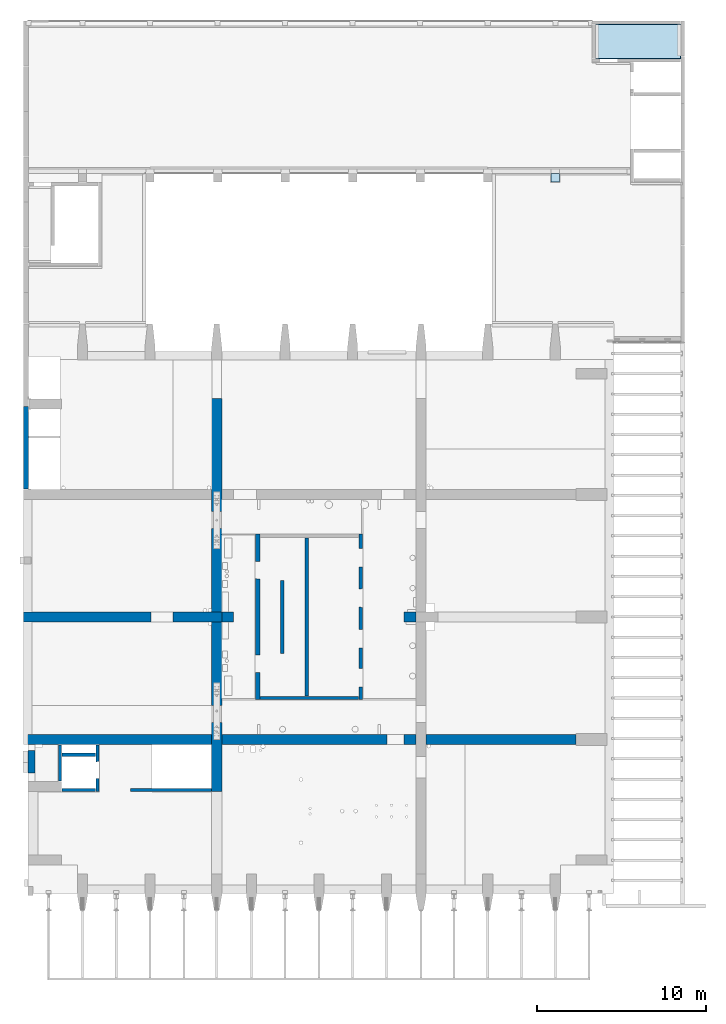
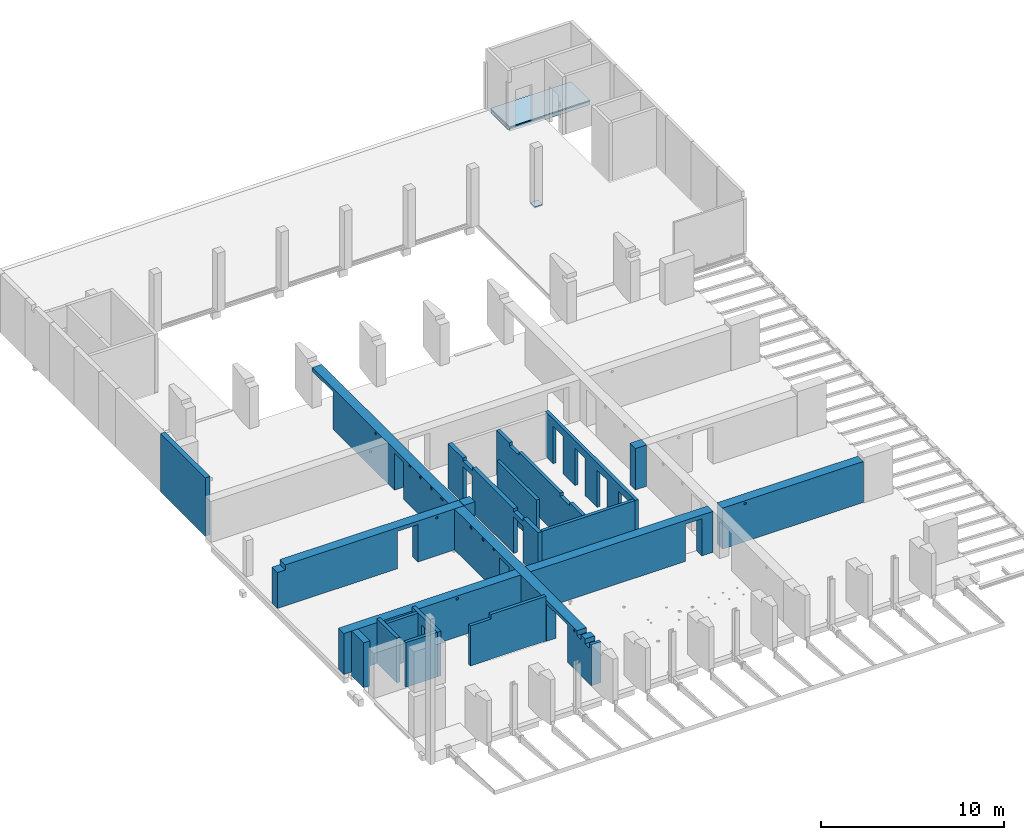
# One storey, part 20 of 27: 17 walls, 3 slabs, 40 openings.
"""IFC2X3 building model written with IfcOpenShell, lengths in millimetres."""

import ifcopenshell
import ifcopenshell.guid

model = None  # the IFC model being written
_history = None  # IfcOwnerHistory: only IFC2X3 demands one
_inside = {}  # id of a spatial element -> (the spatial element, [elements in it])
_under = {}  # id of a project, library or spatial element -> (it, [spatial elements below it])
_declared = {}  # id of a project -> (the project, [libraries it declares])
_typed = {}  # id of a type object -> (the type object, [elements of that type])
_made_of = {}  # id of a material, layer set ... -> (it, [elements and type objects made of it])


def new_model(schema):
    """Start an empty IFC model of exactly this schema.

    Asked for "IFC4X3", IfcOpenShell would pick the latest addendum, in which some entities
    have other attributes; the version numbers below select the first issue.
    IFC2X3 requires an IfcOwnerHistory on every rooted entity: one is made here for all.
    """
    global model, _history
    if schema == "IFC4X3":
        model = ifcopenshell.file(schema_version=(4, 3, 0, 0))
    else:
        model = ifcopenshell.file(schema=schema)
    _inside.clear()
    _under.clear()
    _declared.clear()
    _typed.clear()
    _made_of.clear()
    _history = None
    if model.schema == "IFC2X3":
        org = make("IfcOrganization", Name="unknown")
        user = make(
            "IfcPersonAndOrganization",
            ThePerson=make("IfcPerson", FamilyName="unknown"),
            TheOrganization=org,
        )
        app = make(
            "IfcApplication",
            ApplicationDeveloper=org,
            Version="unknown",
            ApplicationFullName="unknown",
            ApplicationIdentifier="unknown",
        )
        _history = make(
            "IfcOwnerHistory",
            OwningUser=user,
            OwningApplication=app,
            ChangeAction="ADDED",
            CreationDate=0,
        )
    return model


def make(cls, **values):
    """One entity of the class cls with the attributes given. An attribute that is None is left unset."""
    return model.create_entity(
        cls, **{name: value for name, value in values.items() if value is not None}
    )


def entity(cls, *values):
    """Any entity or typed value of the class cls, its attributes in the order of the schema. None: left unset."""
    e = model.create_entity(cls)
    for i, value in enumerate(values):
        if value is not None:
            e[i] = value
    return e


def rooted(cls, **values):
    """An entity with a GlobalId (a new one), such as an element, a storey or a relation."""
    return make(cls, GlobalId=ifcopenshell.guid.new(), OwnerHistory=_history, **values)


def si_unit(unit_type, name, prefix=None):
    """IfcSIUnit, for example si_unit("LENGTHUNIT", "METRE", prefix="MILLI")."""
    return make("IfcSIUnit", UnitType=unit_type, Prefix=prefix, Name=name)


def converted_unit(unit_type, name, factor, base, dimensions=None, offset=None):
    """IfcConversionBasedUnit, such as the inch: factor (a typed value) times the base unit."""
    return make(
        "IfcConversionBasedUnit"
        if offset is None
        else "IfcConversionBasedUnitWithOffset",
        ConversionOffset=offset,
        Dimensions=None
        if dimensions is None
        else entity("IfcDimensionalExponents", *dimensions),
        UnitType=unit_type,
        Name=name,
        ConversionFactor=make(
            "IfcMeasureWithUnit", ValueComponent=factor, UnitComponent=base
        ),
    )


def derived_unit(unit_type, elements):
    """IfcDerivedUnit: a product of units, each with its exponent."""
    return make(
        "IfcDerivedUnit",
        Elements=[
            make("IfcDerivedUnitElement", Unit=unit, Exponent=power)
            for unit, power in elements
        ],
        UnitType=unit_type,
    )


def assignment(units):
    """IfcUnitAssignment: the units of a project."""
    return None if units is None else make("IfcUnitAssignment", Units=units)


def point(xyz):
    """IfcCartesianPoint."""
    return None if xyz is None else make("IfcCartesianPoint", Coordinates=xyz)


def direction(xyz):
    """IfcDirection."""
    return None if xyz is None else make("IfcDirection", DirectionRatios=xyz)


def frame(location, z_axis=None, x_axis=None):
    """IfcAxis2Placement3D, a coordinate frame: its origin and axes. An axis left out is left unset."""
    return make(
        "IfcAxis2Placement3D",
        Location=point(location),
        Axis=direction(z_axis),
        RefDirection=direction(x_axis),
    )


def frame_2d(location, x_axis=None):
    """IfcAxis2Placement2D, a coordinate frame in the plane: its origin and x axis."""
    return make(
        "IfcAxis2Placement2D", Location=point(location), RefDirection=direction(x_axis)
    )


def origin():
    """The frame at (0, 0, 0) with its axes left unset."""
    return frame((0.0, 0.0, 0.0))


def origin_2d_with_axis():
    """The frame at (0, 0) in the plane with the x axis (1, 0) written out."""
    return frame_2d((0.0, 0.0), x_axis=(1.0, 0.0))


def place(relative_to, where):
    """IfcLocalPlacement: puts the frame where relative to a parent placement (None: the world)."""
    return make(
        "IfcLocalPlacement", PlacementRelTo=relative_to, RelativePlacement=where
    )


def context(
    kind, dimensions, precision=None, world=None, true_north=None, identifier=None
):
    """IfcGeometricRepresentationContext, for example the 3D "Model" context."""
    return make(
        "IfcGeometricRepresentationContext",
        ContextIdentifier=identifier,
        ContextType=kind,
        CoordinateSpaceDimension=dimensions,
        Precision=precision,
        WorldCoordinateSystem=world,
        TrueNorth=true_north,
    )


def subcontext(parent, identifier, kind, view, scale=None):
    """IfcGeometricRepresentationSubContext, for example "Body" below "Model"."""
    return make(
        "IfcGeometricRepresentationSubContext",
        ContextIdentifier=identifier,
        ContextType=kind,
        ParentContext=parent,
        TargetScale=scale,
        TargetView=view,
    )


def project(units=None, contexts=None):
    """IfcProject with its units and contexts."""
    return rooted(
        "IfcProject",
        Name="project",
        RepresentationContexts=contexts,
        UnitsInContext=assignment(units),
    )


def spatial(cls, under=None, at=None, **own):
    """A site, building, storey or space (cls), placed at a placement, below another one or the project."""
    s = rooted(cls, ObjectPlacement=at, **own)
    if under is not None:
        _under.setdefault(under.id(), (under, []))[1].append(s)
    return s


def profile(cls, at=None, kind="AREA", **sizes):
    """A parametric profile (cls). Its sizes go by their IFC names, for example OverallWidth=200.0."""
    return make(cls, ProfileType=kind, Position=at, **sizes)


def rectangle(**sizes):
    """IfcRectangleProfileDef."""
    return profile("IfcRectangleProfileDef", **sizes)


def circle(**sizes):
    """IfcCircleProfileDef."""
    return profile("IfcCircleProfileDef", **sizes)


def extrude(swept, where, along, depth):
    """IfcExtrudedAreaSolid: the profile swept, set in the frame where, extruded along a direction by depth."""
    return make(
        "IfcExtrudedAreaSolid",
        SweptArea=swept,
        Position=where,
        ExtrudedDirection=direction(along),
        Depth=depth,
    )


def faces_of(points, faces, orient=None, outer=None):
    """IfcFace entities. A face is a list of loops; a loop is a list of indices into points, from 0.

    orient and outer hold one flag for each loop. By default every Orientation is true, the
    first loop of a face is its IfcFaceOuterBound and the others are IfcFaceBound.
    """
    made = []
    for i, loops in enumerate(faces):
        bounds = []
        for j, loop in enumerate(loops):
            is_outer = j == 0 if outer is None else outer[i][j]
            bounds.append(
                make(
                    "IfcFaceOuterBound" if is_outer else "IfcFaceBound",
                    Bound=make("IfcPolyLoop", Polygon=[points[k] for k in loop]),
                    Orientation=True if orient is None else orient[i][j],
                )
            )
        made.append(make("IfcFace", Bounds=bounds))
    return made


def faceted_brep(points, faces, orient=None, outer=None, voids=None):
    """IfcFacetedBrep: a solid bounded by flat faces; with voids (closed shells), ...WithVoids."""
    shared = [point(p) for p in points]
    hull = make("IfcClosedShell", CfsFaces=faces_of(shared, faces, orient, outer))
    if voids is None:
        return make("IfcFacetedBrep", Outer=hull)
    return make(
        "IfcFacetedBrepWithVoids",
        Outer=hull,
        Voids=[
            make(cls, CfsFaces=faces_of(shared, fs, o, b)) for cls, fs, o, b in voids
        ],
    )


def shape(context_of_items, identifier, shape_type, items):
    """IfcShapeRepresentation: the items that make up one representation, for example the "Body"."""
    return make(
        "IfcShapeRepresentation",
        ContextOfItems=context_of_items,
        RepresentationIdentifier=identifier,
        RepresentationType=shape_type,
        Items=items,
    )


def material(Name=None, Category=None):
    """IfcMaterial."""
    return make("IfcMaterial", Name=Name, Category=Category)


def layer(
    of_material, thickness, ventilated=None, Name=None, Category=None, Priority=None
):
    """IfcMaterialLayer: one layer of a wall or slab, of a material (None: an air gap)."""
    return make(
        "IfcMaterialLayer",
        Material=of_material,
        LayerThickness=thickness,
        IsVentilated=ventilated,
        Name=Name,
        Category=Category,
        Priority=Priority,
    )


def layer_set(layers, Name=None):
    """IfcMaterialLayerSet."""
    return make("IfcMaterialLayerSet", MaterialLayers=layers, LayerSetName=Name)


def layer_usage(for_layer_set, set_direction, sense, offset, extent=None):
    """IfcMaterialLayerSetUsage: how a layer set lies in its element."""
    return make(
        "IfcMaterialLayerSetUsage",
        ForLayerSet=for_layer_set,
        LayerSetDirection=set_direction,
        DirectionSense=sense,
        OffsetFromReferenceLine=offset,
        ReferenceExtent=extent,
    )


def made_of(thing, what):
    """Note that an element or type object is made of a material, layer set ...; save() writes the relation."""
    if what is not None:
        _made_of.setdefault(what.id(), (what, []))[1].append(thing)
    return thing


def type_object(cls, material=None, **own):
    """A type object (cls), such as IfcWallType, which elements share."""
    return made_of(rooted(cls, **own), material)


def element(
    cls,
    number,
    at=None,
    inside=None,
    cuts=None,
    type_object=None,
    material=None,
    context=None,
    identifier="Body",
    shape_type=None,
    held_by="IfcProductDefinitionShape",
    body=None,
    shapes=None,
    **own,
):
    """One element of the class cls, such as IfcWall. Its Tag is "e" and its number.

    at: its placement. inside: the storey or other place that contains it. cuts: it is an
    opening in that element (IfcRelVoidsElement). A single representation is given by context,
    identifier, shape_type and body (its items); several are given by shapes. held_by: the class
    of the entity that holds the representations. save() writes the other relations.
    """
    e = rooted(cls, Tag="e%d" % number, ObjectPlacement=at, **own)
    if body is not None:
        shapes = [shape(context, identifier, shape_type, body)]
    if shapes is not None:
        e.Representation = make(held_by, Representations=shapes)
    if inside is not None:
        _inside.setdefault(inside.id(), (inside, []))[1].append(e)
    if cuts is not None:
        rooted(
            "IfcRelVoidsElement", RelatingBuildingElement=cuts, RelatedOpeningElement=e
        )
    if type_object is not None:
        _typed.setdefault(type_object.id(), (type_object, []))[1].append(e)
    return made_of(e, material)


def aggregate(whole, parts):
    """IfcRelAggregates: a whole, such as a stair, and the parts it consists of."""
    return rooted("IfcRelAggregates", RelatingObject=whole, RelatedObjects=parts)


def save(model, path):
    """Write the relations noted so far, then the file.

    IfcRelAggregates (storeys below a building ...), IfcRelContainedInSpatialStructure (elements
    in a storey), IfcRelDefinesByType, IfcRelAssociatesMaterial and IfcRelDeclares: one each for
    every whole, place, type object, material and project.
    """
    for whole, parts in _under.values():
        aggregate(whole, parts)
    for where, things in _inside.values():
        rooted(
            "IfcRelContainedInSpatialStructure",
            RelatedElements=things,
            RelatingStructure=where,
        )
    for kind, things in _typed.values():
        rooted("IfcRelDefinesByType", RelatedObjects=things, RelatingType=kind)
    for what, things in _made_of.values():
        rooted("IfcRelAssociatesMaterial", RelatedObjects=things, RelatingMaterial=what)
    for by, libraries in _declared.values():
        rooted("IfcRelDeclares", RelatingContext=by, RelatedDefinitions=libraries)
    model.write(path)


model = new_model("IFC2X3")

# Units and contexts
model_context = context("Model", 3, precision=0.01, world=origin(), true_north=direction((6.12303176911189e-17, 1.0)))
body_context = subcontext(model_context, "Body", "Model", "MODEL_VIEW")
ifc_project = project(units=[si_unit("LENGTHUNIT", "METRE", prefix="MILLI"), si_unit("AREAUNIT", "SQUARE_METRE"), si_unit("VOLUMEUNIT", "CUBIC_METRE"), converted_unit("PLANEANGLEUNIT", "DEGREE", entity("IfcRatioMeasure", 0.0174532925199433), si_unit("PLANEANGLEUNIT", "RADIAN"), dimensions=[0, 0, 0, 0, 0, 0, 0]), si_unit("MASSUNIT", "GRAM", prefix="KILO"), derived_unit("MASSDENSITYUNIT", [(si_unit("MASSUNIT", "GRAM", prefix="KILO"), 1), (si_unit("LENGTHUNIT", "METRE"), -3)]), si_unit("TIMEUNIT", "SECOND"), si_unit("FREQUENCYUNIT", "HERTZ"), si_unit("THERMODYNAMICTEMPERATUREUNIT", "DEGREE_CELSIUS"), derived_unit("THERMALTRANSMITTANCEUNIT", [(si_unit("MASSUNIT", "GRAM", prefix="KILO"), 1), (si_unit("THERMODYNAMICTEMPERATUREUNIT", "KELVIN"), -1), (si_unit("TIMEUNIT", "SECOND"), -3)]), derived_unit("VOLUMETRICFLOWRATEUNIT", [(si_unit("LENGTHUNIT", "METRE"), 3), (si_unit("TIMEUNIT", "SECOND"), -1)]), si_unit("ELECTRICCURRENTUNIT", "AMPERE"), si_unit("ELECTRICVOLTAGEUNIT", "VOLT"), si_unit("POWERUNIT", "WATT"), si_unit("FORCEUNIT", "NEWTON", prefix="KILO"), si_unit("ILLUMINANCEUNIT", "LUX"), si_unit("LUMINOUSFLUXUNIT", "LUMEN"), si_unit("LUMINOUSINTENSITYUNIT", "CANDELA"), derived_unit("USERDEFINED", [(si_unit("MASSUNIT", "GRAM", prefix="KILO"), -1), (si_unit("LENGTHUNIT", "METRE"), -2), (si_unit("TIMEUNIT", "SECOND"), 3), (si_unit("LUMINOUSFLUXUNIT", "LUMEN"), 1)]), derived_unit("LINEARVELOCITYUNIT", [(si_unit("LENGTHUNIT", "METRE"), 1), (si_unit("TIMEUNIT", "SECOND"), -1)]), si_unit("PRESSUREUNIT", "PASCAL"), derived_unit("USERDEFINED", [(si_unit("LENGTHUNIT", "METRE"), -2), (si_unit("MASSUNIT", "GRAM", prefix="KILO"), 1), (si_unit("TIMEUNIT", "SECOND"), -2)])], contexts=[model_context])

# Site, building, storey
site_placement = place(None, origin())
site = spatial("IfcSite", under=ifc_project, at=site_placement, Name="Default", CompositionType="ELEMENT")
building_placement = place(site_placement, origin())
building = spatial("IfcBuilding", under=site, at=building_placement, Name="niet gebruiken", CompositionType="ELEMENT")
storey_placement = place(building_placement, frame((0.0, 0.0, 6000.0)))
storey = spatial("IfcBuildingStorey", under=building, at=storey_placement, Name="01 eerste verdieping", CompositionType="ELEMENT", Elevation=6000.0)

# Slabs
ifc_material_1 = material(Name="NLRS_f2_beton prefab")
ifc_layer_1 = layer(ifc_material_1, 255.0)
ifc_layer_set_1 = layer_set([ifc_layer_1], Name="Floor:NLRS_23.21_FL_kanaalplaat d=255_gen")
ifc_layer_usage_1 = layer_usage(ifc_layer_set_1, "AXIS3", "POSITIVE", 0.0)
slab_1_placement = place(storey_placement, origin())
element("IfcSlab", 1, at=slab_1_placement, inside=storey, material=ifc_layer_usage_1, Name="Floor:NLRS_23.21_FL_kanaalplaat d=255_gen", ObjectType="Floor:NLRS_23.21_FL_kanaalplaat d=255_gen", PredefinedType="FLOOR", context=body_context, shape_type="SweptSolid", body=[
    extrude(rectangle(XDim=2010.00000000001, YDim=5030.0000000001, at=frame_2d((0.0, -1.72803993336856e-11), x_axis=(1.0, 0.0))), frame((160655.0, 51575.0, -160.0), z_axis=(0.0, 0.0, -1.0), x_axis=(0.0, 1.0, 0.0)), (0.0, 0.0, 1.0), 255.000000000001),
])
ifc_material_2 = material(Name="NLRS_f2_beton ihwg")
ifc_layer_2 = layer(ifc_material_2, 70.0)
ifc_layer_set_2 = layer_set([ifc_layer_2], Name="Floor:NLRS_23.21_FL_druklaag d=70_gen")
ifc_layer_usage_2 = layer_usage(ifc_layer_set_2, "AXIS3", "POSITIVE", 0.0)
slab_2_placement = place(storey_placement, origin())
element("IfcSlab", 2, at=slab_2_placement, inside=storey, material=ifc_layer_usage_2, Name="Floor:NLRS_23.21_FL_druklaag d=70_gen", ObjectType="Floor:NLRS_23.21_FL_druklaag d=70_gen", PredefinedType="FLOOR", context=body_context, shape_type="SweptSolid", body=[
    extrude(rectangle(XDim=2050.0, YDim=5070.00000000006, at=origin_2d_with_axis()), frame((160655.0, 51575.0, -90.0), z_axis=(0.0, 0.0, -1.0), x_axis=(0.0, 1.0, 0.0)), (0.0, 0.0, 1.0), 70.0000000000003),
])
ifc_layer_3 = layer(ifc_material_2, 80.0)
ifc_layer_set_3 = layer_set([ifc_layer_3], Name="Floor:NLRS_23.21_FL_druklaag d=80_gen")
ifc_layer_usage_3 = layer_usage(ifc_layer_set_3, "AXIS3", "POSITIVE", 0.0)
slab_3_placement = place(storey_placement, frame((124550.0, 43250.0, -170.0)))
element("IfcSlab", 3, at=slab_3_placement, inside=storey, material=ifc_layer_usage_3, Name="Floor:NLRS_23.21_FL_druklaag d=80_gen:2", ObjectType="Floor:NLRS_23.21_FL_druklaag d=80_gen", PredefinedType="FLOOR", context=body_context, shape_type="SweptSolid", body=[
    extrude(rectangle(XDim=499.999999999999, YDim=499.999999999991, at=frame_2d((-14515.0, -4510.0), x_axis=(0.0, -1.0))), frame((16685.0, 4760.0, 80.0), z_axis=(0.0, 0.0, -1.0), x_axis=(-1.0, 0.0, 0.0)), (0.0, 0.0, 1.0), 80.0000000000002),
])

# Wall, openings
ifc_layer_4 = layer(ifc_material_2, 600.0)
ifc_layer_set_4 = layer_set([ifc_layer_4], Name="Basic Wall:NLRS_22.21_WA_beton ihwg d=600_gen")
ifc_layer_usage_4 = layer_usage(ifc_layer_set_4, "AXIS2", "NEGATIVE", 300.0)
wall_type_1 = type_object("IfcWallType", Name="Basic Wall:NLRS_22.21_WA_beton ihwg d=600_gen", PredefinedType="STANDARD", material=ifc_layer_set_4)
wall_1_placement = place(storey_placement, frame((124250.0, 10250.0, -90.0)))
wall_1 = element("IfcWallStandardCase", 4, at=wall_1_placement, inside=storey, type_object=wall_type_1, material=ifc_layer_usage_4, Name="Basic Wall:NLRS_22.21_WA_beton ihwg d=600_gen", ObjectType="Basic Wall:NLRS_22.21_WA_beton ihwg d=600_gen", context=body_context, shape_type="SweptSolid", body=[
    extrude(rectangle(XDim=32730.0, YDim=599.999999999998, at=frame_2d((16365.0, 2.55795384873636e-13), x_axis=(-1.0, 0.0))), origin(), (0.0, 0.0, 1.0), 2730.0),
])
opening_1_placement = place(storey_placement, frame((124250.0, 10250.0, -90.0)))
element("IfcOpeningElement", 5, at=opening_1_placement, cuts=wall_1, Name="Basic Wall:NLRS_22.21_WA_beton ihwg d=600_gen:1", ObjectType="Opening", context=body_context, shape_type="SweptSolid", body=[
    extrude(rectangle(XDim=2730.0, YDim=600.0, at=frame_2d((5.6843418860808e-13, 0.0), x_axis=(1.0, 0.0))), frame((23250.0, 0.0, 1365.0), z_axis=(1.0, 0.0, 0.0), x_axis=(0.0, 0.0, -1.0)), (0.0, 0.0, 1.0), 600.000000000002),
])
opening_2_placement = place(storey_placement, frame((124250.0, 10250.0, -90.0)))
element("IfcOpeningElement", 6, at=opening_2_placement, cuts=wall_1, Name="Basic Wall:NLRS_22.21_WA_beton ihwg d=600_gen:2", ObjectType="Opening", context=body_context, shape_type="SweptSolid", body=[
    extrude(rectangle(XDim=2730.0, YDim=600.0, at=frame_2d((5.6843418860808e-13, 1.08002495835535e-12), x_axis=(1.0, 0.0))), frame((11150.0, 0.0, 1365.0), z_axis=(1.0, 0.0, 0.0), x_axis=(0.0, 0.0, -1.0)), (0.0, 0.0, 1.0), 600.000000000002),
])
opening_3_placement = place(wall_1_placement, origin())
element("IfcOpeningElement", 7, at=opening_3_placement, cuts=wall_1, Name="Basic Wall:NLRS_22.21_WA_beton ihwg d=600_gen", ObjectType="Opening", context=body_context, shape_type="SweptSolid", body=[
    extrude(rectangle(XDim=2475.0, YDim=1015.99999999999, at=frame_2d((5.6843418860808e-13, -8.66862137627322e-12), x_axis=(1.0, 0.0))), frame((22042.0, -300.0, 1237.5), z_axis=(0.0, 1.0, 0.0), x_axis=(0.0, 0.0, -1.0)), (0.0, 0.0, 1.0), 600.0),
])
opening_4_placement = place(wall_1_placement, origin())
element("IfcOpeningElement", 8, at=opening_4_placement, cuts=wall_1, Name="Basic Wall:NLRS_22.21_WA_beton ihwg d=600_gen", ObjectType="Opening", context=body_context, shape_type="SweptSolid", body=[
    extrude(circle(Radius=80.0, at=origin_2d_with_axis()), frame((7150.0, -300.0, 2540.0), z_axis=(0.0, 1.0, 0.0), x_axis=(-1.0, 0.0, 0.0)), (0.0, 0.0, 1.0), 600.0),
])
opening_5_placement = place(wall_1_placement, origin())
element("IfcOpeningElement", 9, at=opening_5_placement, cuts=wall_1, Name="Basic Wall:NLRS_22.21_WA_beton ihwg d=600_gen", ObjectType="Opening", context=body_context, shape_type="SweptSolid", body=[
    extrude(circle(Radius=80.0, at=origin_2d_with_axis()), frame((25280.0, -300.0, 2540.0), z_axis=(0.0, 1.0, 0.0), x_axis=(-1.0, 0.0, 0.0)), (0.0, 0.0, 1.0), 600.0),
])

ifc_layer_usage_5 = layer_usage(ifc_layer_set_4, "AXIS2", "NEGATIVE", 300.0)
wall_2_placement = place(storey_placement, frame((124250.0, 17500.0, -90.0)))
wall_2 = element("IfcWallStandardCase", 10, at=wall_2_placement, inside=storey, type_object=wall_type_1, material=ifc_layer_usage_5, Name="Basic Wall:NLRS_22.21_WA_beton ihwg d=600_gen", ObjectType="Basic Wall:NLRS_22.21_WA_beton ihwg d=600_gen", context=body_context, shape_type="SweptSolid", body=[
    extrude(rectangle(XDim=11750.0000000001, YDim=600.000000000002, at=frame_2d((5875.00000000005, 0.0), x_axis=(-1.0, 0.0))), origin(), (0.0, 0.0, 1.0), 2730.0),
])
opening_6_placement = place(wall_2_placement, origin())
element("IfcOpeningElement", 11, at=opening_6_placement, cuts=wall_2, Name="Basic Wall:NLRS_22.21_WA_beton ihwg d=600_gen", ObjectType="Opening", context=body_context, shape_type="SweptSolid", body=[
    extrude(rectangle(XDim=2490.0, YDim=1300.0, at=frame_2d((5.6843418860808e-13, 8.69704308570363e-12), x_axis=(1.0, 0.0))), frame((8200.0, -300.0, 1245.0), z_axis=(0.0, 1.0, 0.0), x_axis=(0.0, 0.0, -1.0)), (0.0, 0.0, 1.0), 600.0),
])
opening_7_placement = place(wall_2_placement, origin())
element("IfcOpeningElement", 12, at=opening_7_placement, cuts=wall_2, Name="Basic Wall:NLRS_22.21_WA_beton ihwg d=600_gen", ObjectType="Opening", context=body_context, shape_type="SweptSolid", body=[
    extrude(circle(Radius=80.0, at=origin_2d_with_axis()), frame((10050.0, -300.0, 2540.0), z_axis=(0.0, 1.0, 0.0), x_axis=(1.0, 0.0, 0.0)), (0.0, 0.0, 1.0), 600.0),
])
opening_8_placement = place(wall_2_placement, origin())
element("IfcOpeningElement", 13, at=opening_8_placement, cuts=wall_2, Name="Basic Wall:NLRS_22.21_WA_beton ihwg d=600_gen", ObjectType="Opening", context=body_context, shape_type="SweptSolid", body=[
    extrude(rectangle(XDim=329.999999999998, YDim=500.000000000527, at=frame_2d((8.66862137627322e-12, 0.0), x_axis=(0.0, 1.0))), frame((250.0, 300.0, 2565.0), z_axis=(0.0, -1.0, 0.0), x_axis=(-1.0, 0.0, 0.0)), (0.0, 0.0, 1.0), 600.0),
])

ifc_layer_usage_6 = layer_usage(ifc_layer_set_4, "AXIS2", "NEGATIVE", 300.0)
wall_3_placement = place(storey_placement, frame((135700.0, 2270.0, -90.0), z_axis=(0.0, 0.0, 1.0), x_axis=(0.0, 1.0, 0.0)))
wall_3 = element("IfcWallStandardCase", 14, at=wall_3_placement, inside=storey, type_object=wall_type_1, material=ifc_layer_usage_6, Name="Basic Wall:NLRS_22.21_WA_beton ihwg d=600_gen", ObjectType="Basic Wall:NLRS_22.21_WA_beton ihwg d=600_gen", context=body_context, shape_type="SweptSolid", body=[
    extrude(rectangle(XDim=30460.0000000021, YDim=600.000000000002, at=frame_2d((15230.000000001, 8.5265128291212e-13), x_axis=(-1.0, 0.0))), origin(), (0.0, 0.0, 1.0), 2730.0),
])
opening_9_placement = place(storey_placement, frame((135700.0, 2270.0, -90.0), z_axis=(0.0, 0.0, 1.0), x_axis=(0.0, 1.0, 0.0)))
element("IfcOpeningElement", 15, at=opening_9_placement, cuts=wall_3, Name="Basic Wall:NLRS_22.21_WA_beton ihwg d=600_gen:1", ObjectType="Opening", context=body_context, shape_type="SweptSolid", body=[
    extrude(rectangle(XDim=2730.0, YDim=600.000000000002, at=origin_2d_with_axis()), frame((14930.0, 0.0, 1365.0), z_axis=(1.0, 0.0, 0.0), x_axis=(0.0, 0.0, -1.0)), (0.0, 0.0, 1.0), 600.0),
])
opening_10_placement = place(wall_3_placement, origin())
element("IfcOpeningElement", 16, at=opening_10_placement, cuts=wall_3, Name="Basic Wall:NLRS_22.21_WA_beton ihwg d=600_gen", ObjectType="Opening", context=body_context, shape_type="SweptSolid", body=[
    extrude(rectangle(XDim=2475.0, YDim=1016.0, at=frame_2d((5.6843418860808e-13, 0.0), x_axis=(1.0, 0.0))), frame((9488.0, -300.0, 1237.5), z_axis=(0.0, 1.0, 0.0), x_axis=(0.0, 0.0, -1.0)), (0.0, 0.0, 1.0), 600.000000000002),
])
opening_11_placement = place(wall_3_placement, origin())
element("IfcOpeningElement", 17, at=opening_11_placement, cuts=wall_3, Name="Basic Wall:NLRS_22.21_WA_beton ihwg d=600_gen", ObjectType="Opening", context=body_context, shape_type="SweptSolid", body=[
    extrude(rectangle(XDim=2475.0, YDim=1016.0, at=frame_2d((5.6843418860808e-13, -2.1600499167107e-12), x_axis=(1.0, 0.0))), frame((20972.0, -300.0, 1237.5), z_axis=(0.0, 1.0, 0.0), x_axis=(0.0, 0.0, -1.0)), (0.0, 0.0, 1.0), 600.000000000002),
])
opening_12_placement = place(wall_3_placement, origin())
element("IfcOpeningElement", 18, at=opening_12_placement, cuts=wall_3, Name="Basic Wall:NLRS_22.21_WA_beton ihwg d=600_gen", ObjectType="Opening", context=body_context, shape_type="SweptSolid", body=[
    extrude(rectangle(XDim=2490.0, YDim=2300.0, at=frame_2d((5.6843418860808e-13, -3.41060513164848e-13), x_axis=(1.0, 0.0))), frame((3730.0, -300.0, 1245.0), z_axis=(0.0, 1.0, 0.0), x_axis=(0.0, 0.0, -1.0)), (0.0, 0.0, 1.0), 600.000000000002),
])
opening_13_placement = place(wall_3_placement, origin())
element("IfcOpeningElement", 19, at=opening_13_placement, cuts=wall_3, Name="Basic Wall:NLRS_22.21_WA_beton ihwg d=600_gen", ObjectType="Opening", context=body_context, shape_type="SweptSolid", body=[
    extrude(rectangle(XDim=325.0, YDim=450.000000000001, at=frame_2d((0.0, -2.70006239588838e-13), x_axis=(1.0, 0.0))), frame((1330.0, -300.0, 2567.5), z_axis=(0.0, 1.0, 0.0), x_axis=(0.0, 0.0, -1.0)), (0.0, 0.0, 1.0), 600.000000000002),
])
opening_14_placement = place(wall_3_placement, origin())
element("IfcOpeningElement", 20, at=opening_14_placement, cuts=wall_3, Name="Basic Wall:NLRS_22.21_WA_beton ihwg d=600_gen", ObjectType="Opening", context=body_context, shape_type="SweptSolid", body=[
    extrude(rectangle(XDim=325.0, YDim=450.000000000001, at=frame_2d((0.0, 2.70006239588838e-13), x_axis=(1.0, 0.0))), frame((430.0, -300.0, 2567.5), z_axis=(0.0, 1.0, 0.0), x_axis=(0.0, 0.0, -1.0)), (0.0, 0.0, 1.0), 600.000000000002),
])
opening_15_placement = place(wall_3_placement, origin())
element("IfcOpeningElement", 21, at=opening_15_placement, cuts=wall_3, Name="Basic Wall:NLRS_22.21_WA_beton ihwg d=600_gen", ObjectType="Opening", context=body_context, shape_type="SweptSolid", body=[
    extrude(circle(Radius=80.0, at=origin_2d_with_axis()), frame((23530.0, -300.0, 2540.0), z_axis=(0.0, 1.0, 0.0), x_axis=(1.0, 0.0, 0.0)), (0.0, 0.0, 1.0), 600.000000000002),
])
opening_16_placement = place(wall_3_placement, origin())
element("IfcOpeningElement", 22, at=opening_16_placement, cuts=wall_3, Name="Basic Wall:NLRS_22.21_WA_beton ihwg d=600_gen", ObjectType="Opening", context=body_context, shape_type="SweptSolid", body=[
    extrude(circle(Radius=80.0, at=origin_2d_with_axis()), frame((1855.0, -300.0, 2540.0), z_axis=(0.0, 1.0, 0.0), x_axis=(1.0, 0.0, 0.0)), (0.0, 0.0, 1.0), 600.000000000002),
])
opening_17_placement = place(wall_3_placement, origin())
element("IfcOpeningElement", 23, at=opening_17_placement, cuts=wall_3, Name="Basic Wall:NLRS_22.21_WA_beton ihwg d=600_gen", ObjectType="Opening", context=body_context, shape_type="SweptSolid", body=[
    extrude(circle(Radius=80.0, at=origin_2d_with_axis()), frame((10655.0, -300.0, 2625.0), z_axis=(0.0, 1.0, 0.0), x_axis=(1.0, 0.0, 0.0)), (0.0, 0.0, 1.0), 600.000000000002),
])
opening_18_placement = place(wall_3_placement, origin())
element("IfcOpeningElement", 24, at=opening_18_placement, cuts=wall_3, Name="Basic Wall:NLRS_22.21_WA_beton ihwg d=600_gen", ObjectType="Opening", context=body_context, shape_type="SweptSolid", body=[
    extrude(circle(Radius=100.0, at=origin_2d_with_axis()), frame((11810.0000242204, -300.0, 2570.0), z_axis=(0.0, 1.0, 0.0), x_axis=(1.0, 0.0, 0.0)), (0.0, 0.0, 1.0), 600.000000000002),
])
opening_19_placement = place(wall_3_placement, origin())
element("IfcOpeningElement", 25, at=opening_19_placement, cuts=wall_3, Name="Basic Wall:NLRS_22.21_WA_beton ihwg d=600_gen", ObjectType="Opening", context=body_context, shape_type="SweptSolid", body=[
    extrude(circle(Radius=100.0, at=origin_2d_with_axis()), frame((13124.9995617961, -300.0, 2570.0), z_axis=(0.0, 1.0, 0.0), x_axis=(1.0, 0.0, 0.0)), (0.0, 0.0, 1.0), 600.000000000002),
])
opening_20_placement = place(wall_3_placement, origin())
element("IfcOpeningElement", 26, at=opening_20_placement, cuts=wall_3, Name="Basic Wall:NLRS_22.21_WA_beton ihwg d=600_gen", ObjectType="Opening", context=body_context, shape_type="SweptSolid", body=[
    extrude(circle(Radius=62.5, at=origin_2d_with_axis()), frame((16220.0, -300.0, 2540.0), z_axis=(0.0, 1.0, 0.0), x_axis=(1.0, 0.0, 0.0)), (0.0, 0.0, 1.0), 600.000000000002),
])
opening_21_placement = place(wall_3_placement, origin())
element("IfcOpeningElement", 27, at=opening_21_placement, cuts=wall_3, Name="Basic Wall:NLRS_22.21_WA_beton ihwg d=600_gen", ObjectType="Opening", context=body_context, shape_type="SweptSolid", body=[
    extrude(circle(Radius=62.5, at=origin_2d_with_axis()), frame((16420.0, -300.0, 2540.0), z_axis=(0.0, 1.0, 0.0), x_axis=(1.0, 0.0, 0.0)), (0.0, 0.0, 1.0), 600.000000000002),
])
opening_22_placement = place(wall_3_placement, origin())
element("IfcOpeningElement", 28, at=opening_22_placement, cuts=wall_3, Name="Basic Wall:NLRS_22.21_WA_beton ihwg d=600_gen", ObjectType="Opening", context=body_context, shape_type="SweptSolid", body=[
    extrude(circle(Radius=100.0, at=origin_2d_with_axis()), frame((17460.0, -300.0, 2570.0), z_axis=(0.0, 1.0, 0.0), x_axis=(1.0, 0.0, 0.0)), (0.0, 0.0, 1.0), 600.000000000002),
])
opening_23_placement = place(wall_3_placement, origin())
element("IfcOpeningElement", 29, at=opening_23_placement, cuts=wall_3, Name="Basic Wall:NLRS_22.21_WA_beton ihwg d=600_gen", ObjectType="Opening", context=body_context, shape_type="SweptSolid", body=[
    extrude(circle(Radius=100.0, at=origin_2d_with_axis()), frame((18650.0, -300.0, 2570.0), z_axis=(0.0, 1.0, 0.0), x_axis=(1.0, 0.0, 0.0)), (0.0, 0.0, 1.0), 600.000000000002),
])
opening_24_placement = place(wall_3_placement, origin())
element("IfcOpeningElement", 30, at=opening_24_placement, cuts=wall_3, Name="Basic Wall:NLRS_22.21_WA_beton ihwg d=600_gen", ObjectType="Opening", context=body_context, shape_type="SweptSolid", body=[
    extrude(circle(Radius=80.0, at=origin_2d_with_axis()), frame((19805.0, -300.0, 2640.0), z_axis=(0.0, 1.0, 0.0), x_axis=(-1.0, 0.0, 0.0)), (0.0, 0.0, 1.0), 600.000000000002),
])
opening_25_placement = place(wall_3_placement, origin())
element("IfcOpeningElement", 31, at=opening_25_placement, cuts=wall_3, Name="Basic Wall:NLRS_22.21_WA_beton ihwg d=600_gen", ObjectType="Opening", context=body_context, shape_type="SweptSolid", body=[
    extrude(rectangle(XDim=2490.0, YDim=2300.0, at=frame_2d((2.1600499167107e-12, 0.0), x_axis=(0.0, 1.0))), frame((29310.0, 300.0, 1245.0), z_axis=(0.0, -1.0, 0.0), x_axis=(1.0, 0.0, 0.0)), (0.0, 0.0, 1.0), 600.0),
])

# Wall, opening
ifc_layer_usage_7 = layer_usage(ifc_layer_set_4, "AXIS2", "NEGATIVE", 300.0)
wall_4_placement = place(storey_placement, frame((146800.0, 17500.0, -90.0)))
wall_4 = element("IfcWallStandardCase", 32, at=wall_4_placement, inside=storey, type_object=wall_type_1, material=ifc_layer_usage_7, Name="Basic Wall:NLRS_22.21_WA_beton ihwg d=600_gen", ObjectType="Basic Wall:NLRS_22.21_WA_beton ihwg d=600_gen", context=body_context, shape_type="SweptSolid", body=[
    extrude(rectangle(XDim=700.000000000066, YDim=600.000000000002, at=frame_2d((350.000000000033, 0.0), x_axis=(-1.0, 0.0))), origin(), (0.0, 0.0, 1.0), 2760.0),
])
opening_26_placement = place(wall_4_placement, origin())
element("IfcOpeningElement", 33, at=opening_26_placement, cuts=wall_4, Name="Basic Wall:NLRS_22.21_WA_beton ihwg d=600_gen", ObjectType="Opening", context=body_context, shape_type="SweptSolid", body=[
    extrude(rectangle(XDim=2490.0, YDim=1300.0, at=frame_2d((5.6843418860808e-13, -8.69704308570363e-12), x_axis=(1.0, 0.0))), frame((4250.0, -300.0, 1245.0), z_axis=(0.0, 1.0, 0.0), x_axis=(0.0, 0.0, -1.0)), (0.0, 0.0, 1.0), 600.0),
])

# Walls
ifc_layer_usage_8 = layer_usage(ifc_layer_set_4, "AXIS2", "NEGATIVE", 300.0)
wall_5_placement = place(storey_placement, frame((136000.0, 17500.0, -90.0)))
element("IfcWallStandardCase", 34, at=wall_5_placement, inside=storey, type_object=wall_type_1, material=ifc_layer_usage_8, Name="Basic Wall:NLRS_22.21_WA_beton ihwg d=600_gen", ObjectType="Basic Wall:NLRS_22.21_WA_beton ihwg d=600_gen", context=body_context, shape_type="SweptSolid", body=[
    extrude(rectangle(XDim=699.999999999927, YDim=600.000000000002, at=frame_2d((349.999999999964, 0.0), x_axis=(-1.0, 0.0))), origin(), (0.0, 0.0, 1.0), 2760.0),
])
ifc_layer_5 = layer(ifc_material_1, 200.0)
ifc_layer_set_5 = layer_set([ifc_layer_5], Name="Basic Wall:NLRS_22.21_WA_beton prefab d=200_gen")
ifc_layer_usage_9 = layer_usage(ifc_layer_set_5, "AXIS2", "NEGATIVE", 100.0)
wall_type_2 = type_object("IfcWallType", Name="Basic Wall:NLRS_22.21_WA_beton prefab d=200_gen", PredefinedType="STANDARD", material=ifc_layer_set_5)
wall_6_placement = place(storey_placement, frame((126420.0, 7770.0, -50.0), z_axis=(0.0, 0.0, 1.0), x_axis=(0.0, 1.0, 0.0)))
element("IfcWallStandardCase", 35, at=wall_6_placement, inside=storey, type_object=wall_type_2, material=ifc_layer_usage_9, Name="Basic Wall:NLRS_22.21_WA_beton prefab d=200_gen", ObjectType="Basic Wall:NLRS_22.21_WA_beton prefab d=200_gen", context=body_context, shape_type="SweptSolid", body=[
    extrude(rectangle(XDim=2160.0, YDim=199.999999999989, at=frame_2d((1080.0, 0.0), x_axis=(-1.0, 0.0))), origin(), (0.0, 0.0, 1.0), 2980.0),
])

# Wall, opening
ifc_layer_usage_10 = layer_usage(ifc_layer_set_5, "AXIS2", "NEGATIVE", 100.0)
wall_7_placement = place(storey_placement, frame((128640.0, 7150.0, -50.0), z_axis=(0.0, 0.0, 1.0), x_axis=(0.0, 1.0, 0.0)))
wall_7 = element("IfcWallStandardCase", 36, at=wall_7_placement, inside=storey, type_object=wall_type_2, material=ifc_layer_usage_10, Name="Basic Wall:NLRS_22.21_WA_beton prefab d=200_gen", ObjectType="Basic Wall:NLRS_22.21_WA_beton prefab d=200_gen", context=body_context, shape_type="SweptSolid", body=[
    extrude(rectangle(XDim=2779.99999999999, YDim=199.999999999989, at=frame_2d((1390.0, 0.0), x_axis=(-1.0, 0.0))), origin(), (0.0, 0.0, 1.0), 2980.0),
])
opening_27_placement = place(wall_7_placement, frame((778.0, 100.0, 0.0)))
element("IfcOpeningElement", 37, at=opening_27_placement, cuts=wall_7, Name="Basic Wall:NLRS_22.21_WA_beton prefab d=200_gen", ObjectType="Opening", context=body_context, shape_type="Brep", body=[
    faceted_brep([(992.0, 0.0, 2390.0), (992.0, 0.0, 0.0), (12.0, 0.0, 0.0), (12.0, 0.0, 2390.0), (1004.0, -200.0, 2402.0), (0.0, -200.0, 2402.0), (0.0, -200.0, 0.0), (1004.0, -200.0, 0.0)], [[[0, 1, 2, 3]], [[4, 5, 6, 7]], [[4, 0, 3, 5]], [[5, 3, 2, 6]], [[6, 2, 1, 7]], [[7, 1, 0, 4]]]),
])

# Walls
ifc_layer_usage_11 = layer_usage(ifc_layer_set_5, "AXIS2", "NEGATIVE", 100.0)
wall_8_placement = place(storey_placement, frame((126540.0, 7250.0, -50.0)))
element("IfcWallStandardCase", 38, at=wall_8_placement, inside=storey, type_object=wall_type_2, material=ifc_layer_usage_11, Name="Basic Wall:NLRS_22.21_WA_beton prefab d=200_gen", ObjectType="Basic Wall:NLRS_22.21_WA_beton prefab d=200_gen", context=body_context, shape_type="SweptSolid", body=[
    extrude(rectangle(XDim=1979.99999999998, YDim=200.0, at=frame_2d((989.999999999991, -2.98427949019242e-13), x_axis=(-1.0, 0.0))), origin(), (0.0, 0.0, 1.0), 2980.0),
])
ifc_layer_usage_12 = layer_usage(ifc_layer_set_5, "AXIS2", "NEGATIVE", 100.0)
wall_9_placement = place(storey_placement, frame((126540.0, 9350.0, -50.0)))
element("IfcWallStandardCase", 39, at=wall_9_placement, inside=storey, type_object=wall_type_2, material=ifc_layer_usage_12, Name="Basic Wall:NLRS_22.21_WA_beton prefab d=200_gen", ObjectType="Basic Wall:NLRS_22.21_WA_beton prefab d=200_gen", context=body_context, shape_type="SweptSolid", body=[
    extrude(rectangle(XDim=1980.0, YDim=200.0, at=frame_2d((990.0, -2.98427949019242e-13), x_axis=(-1.0, 0.0))), origin(), (0.0, 0.0, 1.0), 2980.0),
])

# Wall, openings
ifc_layer_usage_13 = layer_usage(ifc_layer_set_5, "AXIS2", "NEGATIVE", 100.0)
wall_10_placement = place(storey_placement, frame((144230.0, 22400.0, -50.0), z_axis=(0.0, 0.0, 1.0), x_axis=(0.0, -1.0, 0.0)))
wall_10 = element("IfcWallStandardCase", 40, at=wall_10_placement, inside=storey, type_object=wall_type_2, material=ifc_layer_usage_13, Name="Basic Wall:NLRS_22.21_WA_beton prefab d=200_gen", ObjectType="Basic Wall:NLRS_22.21_WA_beton prefab d=200_gen", context=body_context, shape_type="SweptSolid", body=[
    extrude(rectangle(XDim=9800.0, YDim=199.999999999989, at=frame_2d((4900.0, -3.69482222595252e-13), x_axis=(-1.0, 0.0))), origin(), (0.0, 0.0, 1.0), 2980.0),
])
opening_28_placement = place(wall_10_placement, frame((9047.0, -100.0, 0.0)))
element("IfcOpeningElement", 41, at=opening_28_placement, cuts=wall_10, Name="Basic Wall:NLRS_22.21_WA_beton prefab d=200_gen", ObjectType="Opening", context=body_context, shape_type="Brep", body=[
    faceted_brep([(-1104.0, 200.0, 2502.0), (-1104.0, 200.0, 0.0), (-1092.0, 0.0, 0.0), (-1092.0, 0.0, 2490.0), (0.0, 200.0, 0.0), (-12.0, 0.0, 0.0), (-12.0, 0.0, 2490.0), (0.0, 200.0, 2502.0)], [[[0, 1, 2, 3]], [[1, 4, 5, 2]], [[6, 3, 2, 5]], [[7, 4, 1, 0]], [[7, 0, 3, 6]], [[4, 7, 6, 5]]]),
])
opening_29_placement = place(wall_10_placement, frame((6737.0, -100.0, 0.0)))
element("IfcOpeningElement", 42, at=opening_29_placement, cuts=wall_10, Name="Basic Wall:NLRS_22.21_WA_beton prefab d=200_gen", ObjectType="Opening", context=body_context, shape_type="Brep", body=[
    faceted_brep([(-1104.0, 200.0, 2502.0), (-1104.0, 200.0, 0.0), (-1092.0, 0.0, 0.0), (-1092.0, 0.0, 2490.0), (0.0, 200.0, 0.0), (-12.0, 0.0, 0.0), (-12.0, 0.0, 2490.0), (0.0, 200.0, 2502.0)], [[[0, 1, 2, 3]], [[1, 4, 5, 2]], [[6, 3, 2, 5]], [[7, 4, 1, 0]], [[7, 0, 3, 6]], [[4, 7, 6, 5]]]),
])
opening_30_placement = place(wall_10_placement, frame((4332.0, -100.0, 0.0)))
element("IfcOpeningElement", 43, at=opening_30_placement, cuts=wall_10, Name="Basic Wall:NLRS_22.21_WA_beton prefab d=200_gen", ObjectType="Opening", context=body_context, shape_type="Brep", body=[
    faceted_brep([(-1104.0, 200.0, 2502.0), (-1104.0, 200.0, 0.0), (-1092.0, 0.0, 0.0), (-1092.0, 0.0, 2490.0), (0.0, 200.0, 0.0), (-12.0, 0.0, 0.0), (-12.0, 0.0, 2490.0), (0.0, 200.0, 2502.0)], [[[0, 1, 2, 3]], [[1, 4, 5, 2]], [[6, 3, 2, 5]], [[7, 4, 1, 0]], [[7, 0, 3, 6]], [[4, 7, 6, 5]]]),
])
opening_31_placement = place(wall_10_placement, frame((1942.0, -100.0, 0.0)))
element("IfcOpeningElement", 44, at=opening_31_placement, cuts=wall_10, Name="Basic Wall:NLRS_22.21_WA_beton prefab d=200_gen", ObjectType="Opening", context=body_context, shape_type="Brep", body=[
    faceted_brep([(-1104.0, 200.0, 2502.0), (-1104.0, 200.0, 0.0), (-1092.0, 0.0, 0.0), (-1092.0, 0.0, 2490.0), (0.0, 200.0, 0.0), (-12.0, 0.0, 0.0), (-12.0, 0.0, 2490.0), (0.0, 200.0, 2502.0)], [[[0, 1, 2, 3]], [[1, 4, 5, 2]], [[6, 3, 2, 5]], [[7, 4, 1, 0]], [[7, 0, 3, 6]], [[4, 7, 6, 5]]]),
])

ifc_layer_usage_14 = layer_usage(ifc_layer_set_5, "AXIS2", "NEGATIVE", 100.0)
wall_11_placement = place(storey_placement, frame((141030.0, 22180.0, -50.0), z_axis=(0.0, 0.0, 1.0), x_axis=(0.0, -1.0, 0.0)))
wall_11 = element("IfcWallStandardCase", 45, at=wall_11_placement, inside=storey, type_object=wall_type_2, material=ifc_layer_usage_14, Name="Basic Wall:NLRS_22.21_WA_beton prefab d=200_gen", ObjectType="Basic Wall:NLRS_22.21_WA_beton prefab d=200_gen", context=body_context, shape_type="SweptSolid", body=[
    extrude(rectangle(XDim=9360.0, YDim=199.999999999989, at=frame_2d((4680.0, -2.8421709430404e-14), x_axis=(-1.0, 0.0))), origin(), (0.0, 0.0, 1.0), 2980.0),
])
opening_32_placement = place(wall_11_placement, origin())
element("IfcOpeningElement", 46, at=opening_32_placement, cuts=wall_11, Name="Basic Wall:NLRS_22.21_WA_beton prefab d=200_gen", ObjectType="Opening", context=body_context, shape_type="SweptSolid", body=[
    extrude(rectangle(XDim=200.0, YDim=1044.0, at=frame_2d((0.0, 2.1600499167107e-12), x_axis=(1.0, 0.0))), frame((7452.0, -100.0, 2880.0), z_axis=(0.0, 1.0, 0.0), x_axis=(0.0, 0.0, -1.0)), (0.0, 0.0, 1.0), 199.999999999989),
])
opening_33_placement = place(wall_11_placement, origin())
element("IfcOpeningElement", 47, at=opening_33_placement, cuts=wall_11, Name="Basic Wall:NLRS_22.21_WA_beton prefab d=200_gen", ObjectType="Opening", context=body_context, shape_type="SweptSolid", body=[
    extrude(rectangle(XDim=69.9999999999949, YDim=1044.0, at=frame_2d((0.0, 2.1600499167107e-12), x_axis=(1.0, 0.0))), frame((7452.0, -100.0, 35.0), z_axis=(0.0, 1.0, 0.0), x_axis=(0.0, 0.0, -1.0)), (0.0, 0.0, 1.0), 199.999999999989),
])
opening_34_placement = place(wall_11_placement, origin())
element("IfcOpeningElement", 48, at=opening_34_placement, cuts=wall_11, Name="Basic Wall:NLRS_22.21_WA_beton prefab d=200_gen", ObjectType="Opening", context=body_context, shape_type="SweptSolid", body=[
    extrude(rectangle(XDim=69.9999999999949, YDim=1044.0, at=frame_2d((0.0, 2.1600499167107e-12), x_axis=(1.0, 0.0))), frame((1908.0, -100.0, 35.0), z_axis=(0.0, 1.0, 0.0), x_axis=(0.0, 0.0, -1.0)), (0.0, 0.0, 1.0), 199.999999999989),
])
opening_35_placement = place(wall_11_placement, origin())
element("IfcOpeningElement", 49, at=opening_35_placement, cuts=wall_11, Name="Basic Wall:NLRS_22.21_WA_beton prefab d=200_gen", ObjectType="Opening", context=body_context, shape_type="SweptSolid", body=[
    extrude(rectangle(XDim=200.0, YDim=1044.0, at=frame_2d((0.0, 2.1600499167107e-12), x_axis=(1.0, 0.0))), frame((1908.0, -100.0, 2880.0), z_axis=(0.0, 1.0, 0.0), x_axis=(0.0, 0.0, -1.0)), (0.0, 0.0, 1.0), 199.999999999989),
])

# Walls
ifc_layer_usage_15 = layer_usage(ifc_layer_set_5, "AXIS2", "NEGATIVE", 100.0)
wall_12_placement = place(storey_placement, frame((139590.0, 19660.0, -50.0), z_axis=(0.0, 0.0, 1.0), x_axis=(0.0, -1.0, 0.0)))
element("IfcWallStandardCase", 50, at=wall_12_placement, inside=storey, type_object=wall_type_2, material=ifc_layer_usage_15, Name="Basic Wall:NLRS_22.21_WA_beton prefab d=200_gen", ObjectType="Basic Wall:NLRS_22.21_WA_beton prefab d=200_gen", context=body_context, shape_type="SweptSolid", body=[
    extrude(rectangle(XDim=4320.00000000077, YDim=199.999999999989, at=frame_2d((2160.00000000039, 0.0), x_axis=(-1.0, 0.0))), origin(), (0.0, 0.0, 1.0), 2980.0),
])
ifc_layer_usage_16 = layer_usage(ifc_layer_set_5, "AXIS2", "NEGATIVE", 100.0)
wall_13_placement = place(storey_placement, frame((138270.0, 12700.0, -50.0)))
element("IfcWallStandardCase", 51, at=wall_13_placement, inside=storey, type_object=wall_type_2, material=ifc_layer_usage_16, Name="Basic Wall:NLRS_22.21_WA_beton prefab d=200_gen", ObjectType="Basic Wall:NLRS_22.21_WA_beton prefab d=200_gen", context=body_context, shape_type="SweptSolid", body=[
    extrude(rectangle(XDim=5840.00000000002, YDim=199.999999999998, at=frame_2d((2920.00000000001, -6.82121026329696e-13), x_axis=(-1.0, 0.0))), origin(), (0.0, 0.0, 1.0), 2980.0),
])

# Wall, opening
ifc_layer_usage_17 = layer_usage(ifc_layer_set_5, "AXIS2", "NEGATIVE", 100.0)
wall_14_placement = place(storey_placement, frame((130600.0, 7250.0, -50.0)))
wall_14 = element("IfcWallStandardCase", 52, at=wall_14_placement, inside=storey, type_object=wall_type_2, material=ifc_layer_usage_17, Name="Basic Wall:NLRS_22.21_WA_beton prefab d=200_gen", ObjectType="Basic Wall:NLRS_22.21_WA_beton prefab d=200_gen", context=body_context, shape_type="SweptSolid", body=[
    extrude(rectangle(XDim=4780.00000000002, YDim=200.0, at=frame_2d((2390.00000000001, -4.68958205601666e-13), x_axis=(-1.0, 0.0))), origin(), (0.0, 0.0, 1.0), 2980.0),
])
opening_36_placement = place(wall_14_placement, origin())
element("IfcOpeningElement", 53, at=opening_36_placement, cuts=wall_14, Name="Basic Wall:NLRS_22.21_WA_beton prefab d=200_gen", ObjectType="Opening", context=body_context, shape_type="SweptSolid", body=[
    extrude(rectangle(XDim=310.0, YDim=1290.0, at=frame_2d((8.69704308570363e-12, 5.54223333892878e-13), x_axis=(0.0, 1.0))), frame((645.0, 100.0, 2825.0), z_axis=(0.0, -1.0, 0.0), x_axis=(-1.0, 0.0, 0.0)), (0.0, 0.0, 1.0), 200.0),
])

# Walls
ifc_layer_6 = layer(ifc_material_1, 300.0)
ifc_layer_set_6 = layer_set([ifc_layer_6], Name="Basic Wall:NLRS_22.21_WA_beton prefab d=300_gen")
ifc_layer_usage_18 = layer_usage(ifc_layer_set_6, "AXIS2", "NEGATIVE", 150.0)
wall_type_3 = type_object("IfcWallType", Name="Basic Wall:NLRS_22.21_WA_beton prefab d=300_gen", PredefinedType="STANDARD", material=ifc_layer_set_6)
wall_15_placement = place(storey_placement, frame((124400.0, 25070.0, -50.0), z_axis=(0.0, 0.0, 1.0), x_axis=(0.0, 1.0, 0.0)))
element("IfcWallStandardCase", 54, at=wall_15_placement, inside=storey, type_object=wall_type_3, material=ifc_layer_usage_18, Name="Basic Wall:NLRS_22.21_WA_beton prefab d=300_gen", ObjectType="Basic Wall:NLRS_22.21_WA_beton prefab d=300_gen", context=body_context, shape_type="SweptSolid", body=[
    extrude(rectangle(XDim=4880.0, YDim=300.000000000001, at=frame_2d((2440.0, 0.0), x_axis=(-1.0, 0.0))), origin(), (0.0, 0.0, 1.0), 3880.0),
])
ifc_layer_7 = layer(ifc_material_1, 400.0)
ifc_layer_set_7 = layer_set([ifc_layer_7], Name="Basic Wall:NLRS_22.21_WA_beton prefab d=400_gen")
ifc_layer_usage_19 = layer_usage(ifc_layer_set_7, "AXIS2", "NEGATIVE", 200.0)
wall_type_4 = type_object("IfcWallType", Name="Basic Wall:NLRS_22.21_WA_beton prefab d=400_gen", PredefinedType="STANDARD", material=ifc_layer_set_7)
wall_16_placement = place(storey_placement, frame((124730.0, 9596.0, -50.0), z_axis=(0.0, 0.0, 1.0), x_axis=(0.0, -1.0, 0.0)))
element("IfcWallStandardCase", 55, at=wall_16_placement, inside=storey, type_object=wall_type_4, material=ifc_layer_usage_19, Name="Basic Wall:NLRS_22.21_WA_beton prefab d=400_gen", ObjectType="Basic Wall:NLRS_22.21_WA_beton prefab d=400_gen", context=body_context, shape_type="SweptSolid", body=[
    extrude(rectangle(XDim=1325.0, YDim=400.000000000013, at=frame_2d((662.5, 0.0), x_axis=(-1.0, 0.0))), origin(), (0.0, 0.0, 1.0), 2980.0),
])

# Wall, openings
ifc_layer_8 = layer(ifc_material_1, 250.0)
ifc_layer_set_8 = layer_set([ifc_layer_8], Name="Basic Wall:NLRS_22.21_WA_beton prefab d=250_gen")
ifc_layer_usage_20 = layer_usage(ifc_layer_set_8, "AXIS2", "NEGATIVE", 125.0)
wall_type_5 = type_object("IfcWallType", Name="Basic Wall:NLRS_22.21_WA_beton prefab d=250_gen", PredefinedType="STANDARD", material=ifc_layer_set_8)
wall_17_placement = place(storey_placement, frame((138125.0, 22400.0, -50.0), z_axis=(0.0, 0.0, 1.0), x_axis=(0.0, -1.0, 0.0)))
wall_17 = element("IfcWallStandardCase", 56, at=wall_17_placement, inside=storey, type_object=wall_type_5, material=ifc_layer_usage_20, Name="Basic Wall:NLRS_22.21_WA_beton prefab d=250_gen", ObjectType="Basic Wall:NLRS_22.21_WA_beton prefab d=250_gen", context=body_context, shape_type="SweptSolid", body=[
    extrude(rectangle(XDim=9800.0, YDim=250.000000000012, at=frame_2d((4900.0, 3.69482222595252e-13), x_axis=(-1.0, 0.0))), origin(), (0.0, 0.0, 1.0), 2980.00000000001),
])
opening_37_placement = place(wall_17_placement, origin())
element("IfcOpeningElement", 57, at=opening_37_placement, cuts=wall_17, Name="Basic Wall:NLRS_22.21_WA_beton prefab d=250_gen", ObjectType="Opening", context=body_context, shape_type="SweptSolid", body=[
    extrude(rectangle(XDim=200.0, YDim=1044.0, at=origin_2d_with_axis()), frame((7672.0, -125.0, 2880.0), z_axis=(0.0, 1.0, 0.0), x_axis=(0.0, 0.0, -1.0)), (0.0, 0.0, 1.0), 250.000000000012),
])
opening_38_placement = place(wall_17_placement, origin())
element("IfcOpeningElement", 58, at=opening_38_placement, cuts=wall_17, Name="Basic Wall:NLRS_22.21_WA_beton prefab d=250_gen", ObjectType="Opening", context=body_context, shape_type="SweptSolid", body=[
    extrude(rectangle(XDim=200.0, YDim=1044.0, at=origin_2d_with_axis()), frame((2128.0, -125.0, 2880.0), z_axis=(0.0, 1.0, 0.0), x_axis=(0.0, 0.0, -1.0)), (0.0, 0.0, 1.0), 250.000000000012),
])
opening_39_placement = place(wall_17_placement, frame((8195.0, -125.0, 0.0)))
element("IfcOpeningElement", 59, at=opening_39_placement, cuts=wall_17, Name="Basic Wall:NLRS_22.21_WA_beton prefab d=250_gen", ObjectType="Opening", context=body_context, shape_type="Brep", body=[
    faceted_brep([(-1046.0, 250.0, 2450.0), (-1046.0, 250.0, 0.0), (-1031.0, 0.0, 0.0), (-1031.0, 0.0, 2435.0), (0.0, 250.0, 0.0), (-15.0, 0.0, 0.0), (-15.0, 0.0, 2435.0), (0.0, 250.0, 2450.0)], [[[0, 1, 2, 3]], [[1, 4, 5, 2]], [[6, 3, 2, 5]], [[7, 4, 1, 0]], [[7, 0, 3, 6]], [[4, 7, 6, 5]]]),
])
opening_40_placement = place(wall_17_placement, frame((2651.0, -125.0, 0.0)))
element("IfcOpeningElement", 60, at=opening_40_placement, cuts=wall_17, Name="Basic Wall:NLRS_22.21_WA_beton prefab d=250_gen", ObjectType="Opening", context=body_context, shape_type="Brep", body=[
    faceted_brep([(-1046.0, 250.0, 2450.0), (-1046.0, 250.0, 0.0), (-1031.0, 0.0, 0.0), (-1031.0, 0.0, 2435.0), (0.0, 250.0, 0.0), (-15.0, 0.0, 0.0), (-15.0, 0.0, 2435.0), (0.0, 250.0, 2450.0)], [[[0, 1, 2, 3]], [[1, 4, 5, 2]], [[6, 3, 2, 5]], [[7, 4, 1, 0]], [[7, 0, 3, 6]], [[4, 7, 6, 5]]]),
])

save(model, "model.ifc")
